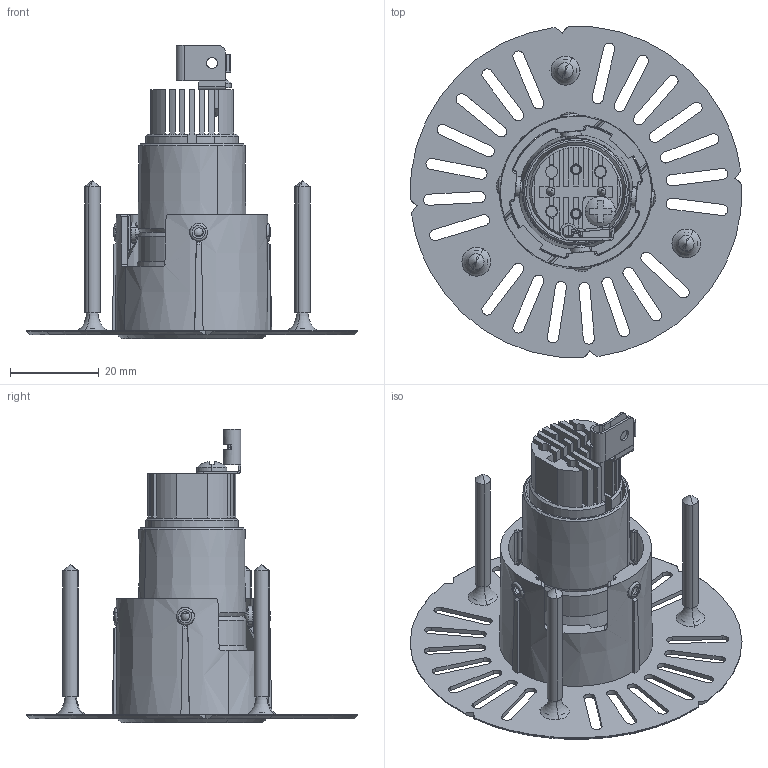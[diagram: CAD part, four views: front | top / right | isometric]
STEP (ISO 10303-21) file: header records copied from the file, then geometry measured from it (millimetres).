
FILE_DESCRIPTION((''),'2;1');
FILE_NAME('MOOD_PRO_XS_ROUND_TRIMLESS_ASM','2020-09-09T',('Administrator'),(''),'PRO/ENGINEER BY PARAMETRIC TECHNOLOGY CORPORATION, 2001280','PRO/ENGINEER BY PARAMETRIC TECHNOLOGY CORPORATION, 2001280','');
FILE_SCHEMA(('CONFIG_CONTROL_DESIGN'));
Length unit declared in the file: millimetre
Products named in the file (22): 3_42250_01_0; 1_42249_00_0; 1_41223_02_0; _1; _2; 1_35498_00_0_ASM; 3_42255_00_0; 1_42289_00_0; 1_38486_00_0; PARTBODY_1; PARTBODY_2; PARTBODY_3; 1_42808_00_0_ASM; X_CG10B_00_0_ASM; _X-CP10B; X-CP10B_ASM; 3_52961-RI01; 1_52340-PCB; 1_34839_00_0; 52961-52340_ASM; 1_00243; MOOD_PRO_XS_ROUND_TRIMLESS_ASM
Assembly tree (27 placements, depth 5):
  MOOD_PRO_XS_ROUND_TRIMLESS_ASM
    X-CP10B_ASM
      X_CG10B_00_0_ASM
        3_42250_01_0
        1_42249_00_0
        1_41223_02_0
        1_35498_00_0_ASM  x4
          _1
          _2
        3_42255_00_0
        1_42289_00_0
        1_38486_00_0  x3
        1_42808_00_0_ASM
          PARTBODY_1
          PARTBODY_2
          PARTBODY_3
      _X-CP10B
    52961-52340_ASM
      3_52961-RI01
      1_52340-PCB
      1_34839_00_0  x2
    1_00243
Bounding box: 74.91 x 74.91 x 66.2 mm (x, y, z)
Volume: 21201.8 mm3; surface area: 30585.1 mm2
Topology: 23 solids, 24 shells, 1026 faces, 2621 edges, 1635 vertices
Faces by surface type: plane 476, cylinder 299, cone 100, bspline 72, torus 38, sphere 26, extrusion 10, revolution 5
Entity records: 31426 total; most frequent: CARTESIAN_POINT 9549, ORIENTED_EDGE 4546, DIRECTION 4351, EDGE_CURVE 2276, AXIS2_PLACEMENT_3D 1538, VERTEX_POINT 1434, VECTOR 1270, LINE 1260
